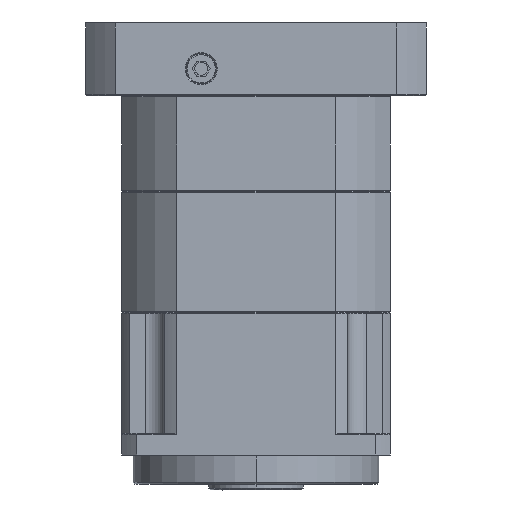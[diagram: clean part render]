
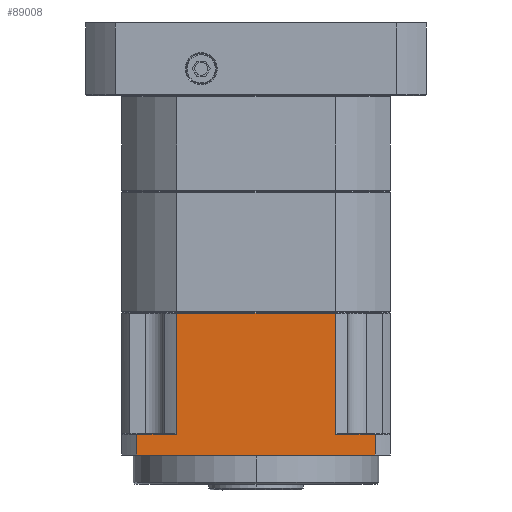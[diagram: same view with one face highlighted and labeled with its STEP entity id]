
A CAD part, left-side view. The second image highlights one B-rep face of the part: STEP entity #89008.
In plain terms, the highlighted planar face has unit normal (1, 0, 0).
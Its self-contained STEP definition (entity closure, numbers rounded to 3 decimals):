
#246 = VECTOR ( 'NONE', #17419, 1000. ) ;
#4906 = DIRECTION ( 'NONE',  ( 0., 0., -1. ) ) ;
#5007 = VERTEX_POINT ( 'NONE', #21203 ) ;
#5228 = VECTOR ( 'NONE', #43663, 1000. ) ;
#5486 = DIRECTION ( 'NONE',  ( 0., 1., 0. ) ) ;
#7467 = LINE ( 'NONE', #8820, #5228 ) ;
#7822 = VECTOR ( 'NONE', #60525, 1000. ) ;
#8693 = ORIENTED_EDGE ( 'NONE', *, *, #9962, .T. ) ;
#8820 = CARTESIAN_POINT ( 'NONE',  ( -71., 42.015, 38. ) ) ;
#9021 = DIRECTION ( 'NONE',  ( 0., 0., 1. ) ) ;
#9962 = EDGE_CURVE ( 'NONE', #53464, #71259, #45358, .T. ) ;
#10481 = CARTESIAN_POINT ( 'NONE',  ( -71., 0., 11.5 ) ) ;
#11920 = ORIENTED_EDGE ( 'NONE', *, *, #53557, .F. ) ;
#13398 = CARTESIAN_POINT ( 'NONE',  ( -71., -42.015, 75.5 ) ) ;
#15367 = DIRECTION ( 'NONE',  ( 0., 0., -1. ) ) ;
#16353 = CARTESIAN_POINT ( 'NONE',  ( -71., 42.015, 11.5 ) ) ;
#16597 = LINE ( 'NONE', #10481, #246 ) ;
#17419 = DIRECTION ( 'NONE',  ( 0., 1., 0. ) ) ;
#19684 = VERTEX_POINT ( 'NONE', #41425 ) ;
#21203 = CARTESIAN_POINT ( 'NONE',  ( -71., 63.119, 0.5 ) ) ;
#24795 = ORIENTED_EDGE ( 'NONE', *, *, #63796, .F. ) ;
#27548 = CARTESIAN_POINT ( 'NONE',  ( -71., -42.015, 11.5 ) ) ;
#30251 = VECTOR ( 'NONE', #15367, 1000. ) ;
#35031 = LINE ( 'NONE', #42190, #51287 ) ;
#35200 = DIRECTION ( 'NONE',  ( 0., -1., 0. ) ) ;
#36832 = VERTEX_POINT ( 'NONE', #64533 ) ;
#38977 = VERTEX_POINT ( 'NONE', #16353 ) ;
#41425 = CARTESIAN_POINT ( 'NONE',  ( -71., 63.119, 11.5 ) ) ;
#42190 = CARTESIAN_POINT ( 'NONE',  ( -71., 0., 0.5 ) ) ;
#42533 = ORIENTED_EDGE ( 'NONE', *, *, #60560, .F. ) ;
#43280 = CARTESIAN_POINT ( 'NONE',  ( -71., -63.119, 38. ) ) ;
#43615 = ORIENTED_EDGE ( 'NONE', *, *, #88330, .T. ) ;
#43663 = DIRECTION ( 'NONE',  ( 0., 0., -1. ) ) ;
#44667 = EDGE_LOOP ( 'NONE', ( #24795, #11920, #86272, #84066, #42533, #43615, #8693, #74491 ) ) ;
#45358 = LINE ( 'NONE', #53450, #82276 ) ;
#46869 = EDGE_CURVE ( 'NONE', #71259, #58690, #79409, .T. ) ;
#47050 = DIRECTION ( 'NONE',  ( 1., 0., 0. ) ) ;
#48368 = VECTOR ( 'NONE', #67859, 1000. ) ;
#48469 = EDGE_CURVE ( 'NONE', #19684, #5007, #85571, .T. ) ;
#49383 = LINE ( 'NONE', #43280, #67796 ) ;
#49931 = CARTESIAN_POINT ( 'NONE',  ( -71., 63.119, 38. ) ) ;
#51287 = VECTOR ( 'NONE', #35200, 1000. ) ;
#53450 = CARTESIAN_POINT ( 'NONE',  ( -71., -42.015, 43.308 ) ) ;
#53464 = VERTEX_POINT ( 'NONE', #13398 ) ;
#53557 = EDGE_CURVE ( 'NONE', #5007, #67064, #35031, .T. ) ;
#53584 = FACE_OUTER_BOUND ( 'NONE', #44667, .T. ) ;
#58690 = VERTEX_POINT ( 'NONE', #79875 ) ;
#60213 = CARTESIAN_POINT ( 'NONE',  ( -71., -52.567, 11.5 ) ) ;
#60525 = DIRECTION ( 'NONE',  ( 0., -1., 0. ) ) ;
#60560 = EDGE_CURVE ( 'NONE', #36832, #38977, #7467, .T. ) ;
#60700 = PLANE ( 'NONE',  #80411 ) ;
#60755 = CARTESIAN_POINT ( 'NONE',  ( -71., -63.119, 0.5 ) ) ;
#63796 = EDGE_CURVE ( 'NONE', #67064, #58690, #49383, .T. ) ;
#64533 = CARTESIAN_POINT ( 'NONE',  ( -71., 42.015, 75.5 ) ) ;
#67064 = VERTEX_POINT ( 'NONE', #60755 ) ;
#67796 = VECTOR ( 'NONE', #9021, 1000. ) ;
#67859 = DIRECTION ( 'NONE',  ( 0., -1., 0. ) ) ;
#71259 = VERTEX_POINT ( 'NONE', #27548 ) ;
#73730 = EDGE_CURVE ( 'NONE', #38977, #19684, #16597, .T. ) ;
#74491 = ORIENTED_EDGE ( 'NONE', *, *, #46869, .T. ) ;
#74574 = CARTESIAN_POINT ( 'NONE',  ( -71., 0., 75.5 ) ) ;
#79409 = LINE ( 'NONE', #60213, #7822 ) ;
#79875 = CARTESIAN_POINT ( 'NONE',  ( -71., -63.119, 11.5 ) ) ;
#80411 = AXIS2_PLACEMENT_3D ( 'NONE', #88537, #47050, #5486 ) ;
#82276 = VECTOR ( 'NONE', #4906, 1000. ) ;
#84066 = ORIENTED_EDGE ( 'NONE', *, *, #73730, .F. ) ;
#85571 = LINE ( 'NONE', #49931, #30251 ) ;
#86272 = ORIENTED_EDGE ( 'NONE', *, *, #48469, .F. ) ;
#88330 = EDGE_CURVE ( 'NONE', #36832, #53464, #89556, .T. ) ;
#88537 = CARTESIAN_POINT ( 'NONE',  ( -71., -63.119, 0.5 ) ) ;
#89008 = ADVANCED_FACE ( 'NONE', ( #53584 ), #60700, .T. ) ;
#89556 = LINE ( 'NONE', #74574, #48368 ) ;
